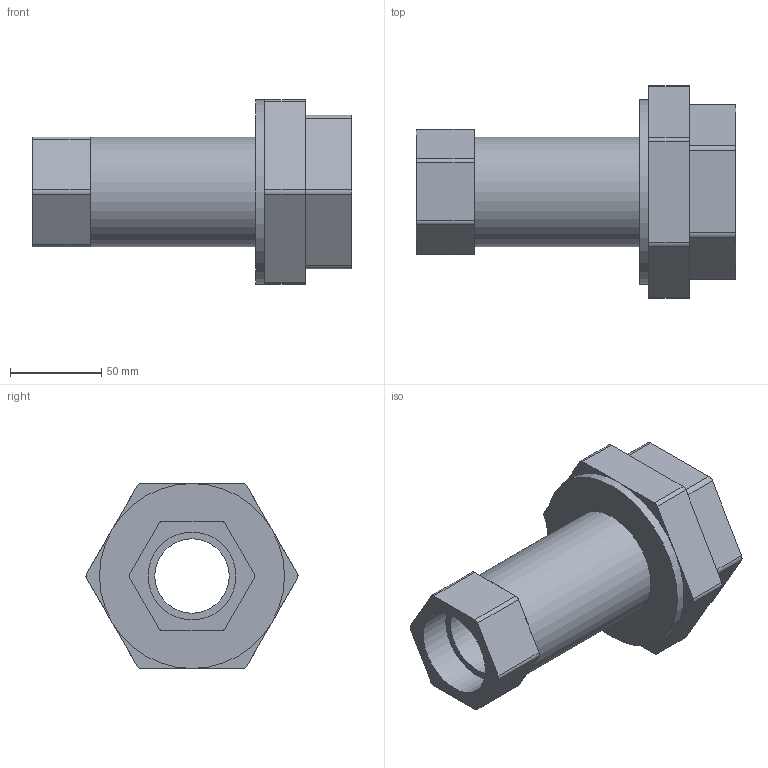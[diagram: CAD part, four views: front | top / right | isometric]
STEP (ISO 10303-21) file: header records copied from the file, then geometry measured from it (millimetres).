
FILE_DESCRIPTION(/* description */ ('VIC VALVE BALANCING LOW LEAD TA SERIES 76X (FPT)-POTABLE WATER'),/* implementation_level */ '2;1');
FILE_NAME(/* name */ 'C:\Files for Export\76X\Victaulic_IPS-HB_Valve ICSS-Low Lead Balancing POTW_TA Series 76X (FPT)\Victaulic_IPS-HB_Valve ICSS-Low Lead Balancing POTW_TA Series 76X (FPT)_1.5 (40).stp',/* time_stamp */ '2024-03-08T10:54:13+01:00',/* author */ ('Vjadhav'),/* organization */ ('Victaulic'),/* preprocessor_version */ 'ST-DEVELOPER v18.1',/* originating_system */ 'Autodesk Inventor 2020',/* authorisation */ '');
FILE_SCHEMA (('AUTOMOTIVE_DESIGN { 1 0 10303 214 3 1 1 }'));
Length unit declared in the file: inch
Products named in the file (1): 76X-01.5
Bounding box: 175.26 x 116.53 x 101.6 mm (x, y, z)
Volume: 507902.1 mm3; surface area: 79731.8 mm2
Topology: 1 solids, 1 shells, 59 faces, 152 edges, 99 vertices
Faces by surface type: plane 36, cylinder 23
Full cylindrical faces by diameter (mm): 40.894 x1, 48.26 x2, 60.325 x1, 101.6 x1
Entity records: 1919 total; most frequent: DIRECTION 335, CARTESIAN_POINT 311, ORIENTED_EDGE 304, EDGE_CURVE 152, AXIS2_PLACEMENT_3D 123, VERTEX_POINT 99, LINE 89, VECTOR 89
